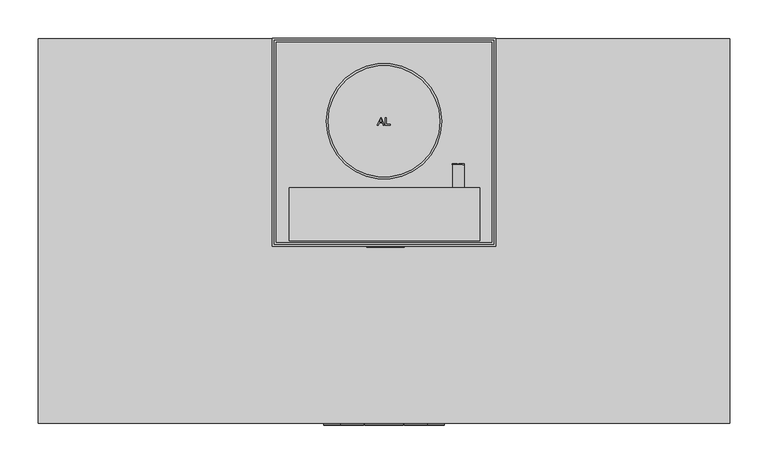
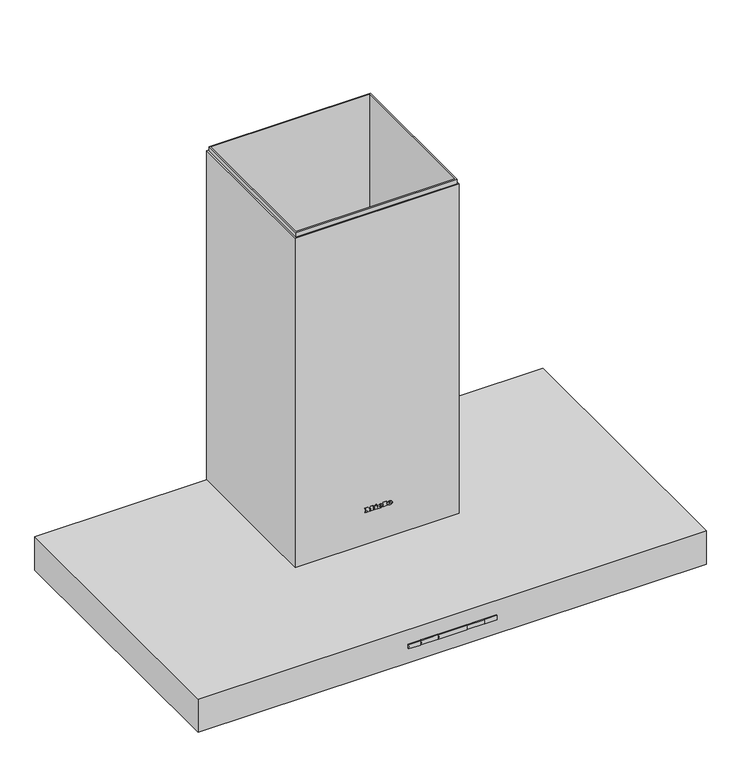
"""IFC4 building model written with IfcOpenShell, lengths in millimetres: proxy geometry, 10861860_F_DA4298W_EDST : 28429850_F_10861860_DA4298W_EDST."""

from ifc_helpers import new_model, si_unit, point, frame, frame_2d, origin, place, context, project, spatial, polyline, circle_curve, ellipse_curve, trimmed, segment, composite_curve, outline, extrude, faceted_brep, source, transform, mapped, element, save
from ifc_brep_helpers import plane_surface, cylinder_surface, revolved_surface, extruded_surface, advanced_brep


def specialty_equipment_3ea5a5a3(model_context):
    return source(origin(), model_context, "Body", "SolidModel", [
        advanced_brep(
        [(-270.0, -20.971114, 2.6236572), (-270.0, -76.028886, 17.3763428), (-270.0, -48.5, 10.0), (-270.0, -22.9370789, 1.9081045), (-270.0, -74.6840869, 15.7736735), (-270.0, -48.8105829, 8.840889)],
        [
            (0, 1, circle_curve(frame((-270.0, -48.5, 10.0), z_axis=(0.0, 0.25881904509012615, 0.9659258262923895), x_axis=(0.0, -0.9659258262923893, 0.2588190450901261)), 28.5)),
            (1, 2),
            (2, 0),
            (1, 0, circle_curve(frame((-270.0, -48.5, 10.0), z_axis=(0.0, 0.25881904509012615, 0.9659258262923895), x_axis=(0.0, -0.9659258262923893, 0.2588190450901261)), 28.5)),
            (0, 3),
            (3, 4, circle_curve(frame((-270.0, -48.8105829, 8.840889), z_axis=(0.0, 0.25881904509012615, 0.9659258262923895), x_axis=(0.0, -0.9659258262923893, 0.2588190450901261)), 26.7862224)),
            (4, 1),
            (4, 3, circle_curve(frame((-270.0, -48.8105829, 8.840889), z_axis=(0.0, 0.25881904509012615, 0.9659258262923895), x_axis=(0.0, -0.9659258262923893, 0.2588190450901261)), 26.7862224)),
            (3, 5),
            (5, 4),
        ],
        [
            plane_surface(frame((-270.0, -48.5, 10.0), z_axis=(0.0, 0.25881904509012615, 0.9659258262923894), x_axis=(0.0, -0.9659258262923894, 0.25881904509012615))),
            revolved_surface(polyline([(-270.0, -76.028886, 17.3763428), (-270.0, -74.6840869, 15.7736735)]), (-270.0, -48.5, 10.0), (0.0, -0.2588190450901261, -0.9659258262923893)),
            plane_surface(frame((-270.0, -48.8105829, 8.840889), z_axis=(0.0, -0.25881904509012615, -0.9659258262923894), x_axis=(0.0, -0.9659258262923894, 0.25881904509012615))),
        ],
        [
            (0, [[1, 2, 3]]),
            (0, [[-2, 4, -3]]),
            (1, [[-1, 5, 6, 7]]),
            (1, [[-4, -7, 8, -5]]),
            (2, [[-6, 9, 10]]),
            (2, [[-8, -10, -9]]),
        ],
    ),
        advanced_brep(
        [(0.0, -20.971114, 2.6236572), (0.0, -76.028886, 17.3763428), (0.0, -48.5, 10.0), (0.0, -22.9370789, 1.9081045), (0.0, -74.6840869, 15.7736735), (0.0, -48.8105829, 8.840889)],
        [
            (0, 1, circle_curve(frame((0.0, -48.5, 10.0), z_axis=(0.0, 0.2588190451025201, 0.9659258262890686), x_axis=(0.0, -0.9659258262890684, 0.25881904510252)), 28.5)),
            (1, 2),
            (2, 0),
            (1, 0, circle_curve(frame((0.0, -48.5, 10.0), z_axis=(0.0, 0.2588190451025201, 0.9659258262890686), x_axis=(0.0, -0.9659258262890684, 0.25881904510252)), 28.5)),
            (0, 3),
            (3, 4, circle_curve(frame((0.0, -48.8105829, 8.840889), z_axis=(0.0, 0.2588190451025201, 0.9659258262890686), x_axis=(0.0, -0.9659258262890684, 0.25881904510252)), 26.7862224)),
            (4, 1),
            (4, 3, circle_curve(frame((0.0, -48.8105829, 8.840889), z_axis=(0.0, 0.2588190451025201, 0.9659258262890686), x_axis=(0.0, -0.9659258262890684, 0.25881904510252)), 26.7862224)),
            (3, 5),
            (5, 4),
        ],
        [
            plane_surface(frame((0.0, -48.5, 10.0), z_axis=(0.0, 0.2588190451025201, 0.9659258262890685), x_axis=(0.0, -0.9659258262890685, 0.2588190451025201))),
            revolved_surface(polyline([(0.0, -76.028886, 17.3763428), (0.0, -74.6840869, 15.7736735)]), (0.0, -48.5, 10.0), (0.0, -0.25881904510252, -0.9659258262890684)),
            plane_surface(frame((0.0, -48.8105829, 8.840889), z_axis=(0.0, -0.2588190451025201, -0.9659258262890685), x_axis=(0.0, -0.9659258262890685, 0.2588190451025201))),
        ],
        [
            (0, [[1, 2, 3]]),
            (0, [[-2, 4, -3]]),
            (1, [[-1, 5, 6, 7]]),
            (1, [[-4, -7, 8, -5]]),
            (2, [[-6, 9, 10]]),
            (2, [[-8, -10, -9]]),
        ],
    ),
        advanced_brep(
        [(270.0, -20.971114, 2.6236572), (270.0, -76.028886, 17.3763428), (270.0, -48.5, 10.0), (270.0, -22.9370789, 1.9081045), (270.0, -74.6840869, 15.7736735), (270.0, -48.8105829, 8.840889)],
        [
            (0, 1, circle_curve(frame((270.0, -48.5, 10.0), z_axis=(0.0, 0.2588190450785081, 0.9659258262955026), x_axis=(0.0, -0.9659258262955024, 0.25881904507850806)), 28.5)),
            (1, 2),
            (2, 0),
            (1, 0, circle_curve(frame((270.0, -48.5, 10.0), z_axis=(0.0, 0.2588190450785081, 0.9659258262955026), x_axis=(0.0, -0.9659258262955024, 0.25881904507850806)), 28.5)),
            (0, 3),
            (3, 4, circle_curve(frame((270.0, -48.8105829, 8.840889), z_axis=(0.0, 0.2588190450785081, 0.9659258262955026), x_axis=(0.0, -0.9659258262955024, 0.25881904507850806)), 26.7862224)),
            (4, 1),
            (4, 3, circle_curve(frame((270.0, -48.8105829, 8.840889), z_axis=(0.0, 0.2588190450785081, 0.9659258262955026), x_axis=(0.0, -0.9659258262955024, 0.25881904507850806)), 26.7862224)),
            (3, 5),
            (5, 4),
        ],
        [
            plane_surface(frame((270.0, -48.5, 10.0), z_axis=(0.0, 0.2588190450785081, 0.9659258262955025), x_axis=(0.0, -0.9659258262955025, 0.2588190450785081))),
            revolved_surface(polyline([(270.0, -76.028886, 17.3763428), (270.0, -74.6840869, 15.7736735)]), (270.0, -48.5, 10.0), (0.0, -0.25881904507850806, -0.9659258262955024)),
            plane_surface(frame((270.0, -48.8105829, 8.840889), z_axis=(0.0, -0.2588190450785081, -0.9659258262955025), x_axis=(0.0, -0.9659258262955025, 0.2588190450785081))),
        ],
        [
            (0, [[1, 2, 3]]),
            (0, [[-2, 4, -3]]),
            (1, [[-1, 5, 6, 7]]),
            (1, [[-4, -7, 8, -5]]),
            (2, [[-6, 9, 10]]),
            (2, [[-8, -10, -9]]),
        ],
    ),
        extrude(outline(polyline([(131.6666667, -106.0), (131.6666667, -464.0), (-131.6666667, -464.0), (-131.6666667, -106.0), (131.6666667, -106.0)])), frame((0.0, 0.0, 6.5), z_axis=(0.0, 0.0, 1.0), x_axis=(1.0, 0.0, 0.0)), (0.0, 0.0, 1.0), 6.0),
        extrude(outline(polyline([(140.6666667, -97.0), (140.6666667, -473.0), (-140.6666667, -473.0), (-140.6666667, -97.0), (140.6666667, -97.0)]), holes=[polyline([(131.6666667, -106.0), (-131.6666667, -106.0), (-131.6666667, -464.0), (131.6666667, -464.0), (131.6666667, -106.0)])]), frame((0.0, 0.0, 5.0), z_axis=(0.0, 0.0, 1.0), x_axis=(1.0, 0.0, 0.0)), (0.0, 0.0, 1.0), 9.0),
        extrude(outline(polyline([(149.6666667, -106.0), (413.0, -106.0), (413.0, -464.0), (149.6666667, -464.0), (149.6666667, -106.0)])), frame((0.0, 0.0, 6.5), z_axis=(0.0, 0.0, 1.0), x_axis=(1.0, 0.0, 0.0)), (0.0, 0.0, 1.0), 6.0),
        extrude(outline(polyline([(140.6666667, -97.0), (422.0, -97.0), (422.0, -473.0), (140.6666667, -473.0), (140.6666667, -97.0)]), holes=[polyline([(149.6666667, -106.0), (149.6666667, -464.0), (413.0, -464.0), (413.0, -106.0), (149.6666667, -106.0)])]), frame((0.0, 0.0, 5.0), z_axis=(0.0, 0.0, 1.0), x_axis=(1.0, 0.0, 0.0)), (0.0, 0.0, 1.0), 9.0),
        extrude(outline(polyline([(-149.6666667, -106.0), (-149.6666667, -464.0), (-413.0, -464.0), (-413.0, -106.0), (-149.6666667, -106.0)])), frame((0.0, 0.0, 6.5), z_axis=(0.0, 0.0, 1.0), x_axis=(1.0, 0.0, 0.0)), (0.0, 0.0, 1.0), 6.0),
        extrude(outline(polyline([(-140.6666667, -97.0), (-140.6666667, -473.0), (-422.0, -473.0), (-422.0, -97.0), (-140.6666667, -97.0)]), holes=[polyline([(-149.6666667, -106.0), (-413.0, -106.0), (-413.0, -464.0), (-149.6666667, -464.0), (-149.6666667, -106.0)])]), frame((0.0, 0.0, 5.0), z_axis=(0.0, 0.0, 1.0), x_axis=(1.0, 0.0, 0.0)), (0.0, 0.0, 1.0), 9.0),
        extrude(outline(polyline([(16.5, -421.0), (16.5, -464.0), (-16.5, -464.0), (-16.5, -421.0), (16.5, -421.0)]), holes=[polyline([(10.0, -427.5), (-10.0, -427.5), (-10.0, -436.5), (10.0, -436.5), (10.0, -427.5)])]), frame((0.0, 0.0, 5.0), z_axis=(0.0, 0.0, 1.0), x_axis=(1.0, 0.0, 0.0)), (0.0, 0.0, 1.0), 1.5),
        extrude(outline(polyline([(264.8333333, -421.0), (297.8333333, -421.0), (297.8333333, -464.0), (264.8333333, -464.0), (264.8333333, -421.0)]), holes=[polyline([(271.3333333, -427.5), (271.3333333, -436.5), (291.1047662, -436.5), (291.1047662, -427.5), (271.3333333, -427.5)])]), frame((0.0, 0.0, 5.0), z_axis=(0.0, 0.0, 1.0), x_axis=(1.0, 0.0, 0.0)), (0.0, 0.0, 1.0), 1.5),
        extrude(outline(polyline([(-264.8333333, -421.0), (-264.8333333, -464.0), (-297.8333333, -464.0), (-297.8333333, -421.0), (-264.8333333, -421.0)]), holes=[polyline([(-271.3333333, -427.5), (-291.3333333, -427.5), (-291.3333333, -436.5), (-271.3333333, -436.5), (-271.3333333, -427.5)])]), frame((0.0, 0.0, 5.0), z_axis=(0.0, 0.0, 1.0), x_axis=(1.0, 0.0, 0.0)), (0.0, 0.0, 1.0), 1.5),
        faceted_brep([(-142.5, -267.5, 685.0), (142.5, -267.5, 685.0), (142.5, -2.5, 685.0), (-142.5, -2.5, 685.0), (140.0, -5.0, 685.0), (140.0, -265.0, 685.0), (-140.0, -265.0, 685.0), (-140.0, -5.0, 685.0), (-142.5, -267.5, 210.0), (-142.5, -2.5, 210.0), (142.5, -2.5, 210.0), (142.5, -267.5, 210.0), (140.0, -5.0, 210.0), (-140.0, -5.0, 210.0), (-140.0, -265.0, 210.0), (140.0, -265.0, 210.0), (-142.5, -247.0, 245.0), (-142.5, -236.4, 245.0), (-142.5, -236.4, 345.0), (-142.5, -247.0, 345.0), (-142.5, -225.8, 245.0), (-142.5, -215.2, 245.0), (-142.5, -215.2, 345.0), (-142.5, -225.8, 345.0), (-142.5, -204.6, 245.0), (-142.5, -194.0, 245.0), (-142.5, -194.0, 345.0), (-142.5, -204.6, 345.0), (-142.5, -183.4, 245.0), (-142.5, -172.8, 245.0), (-142.5, -172.8, 345.0), (-142.5, -183.4, 345.0), (-142.5, -162.2, 245.0), (-142.5, -151.6, 245.0), (-142.5, -151.6, 345.0), (-142.5, -162.2, 345.0), (-142.5, -141.0, 245.0), (-142.5, -129.0, 245.0), (-142.5, -129.0, 345.0), (-142.5, -141.0, 345.0), (-142.5, -118.4, 245.0), (-142.5, -107.8, 245.0), (-142.5, -107.8, 345.0), (-142.5, -118.4, 345.0), (-142.5, -97.2, 245.0), (-142.5, -86.6, 245.0), (-142.5, -86.6, 345.0), (-142.5, -97.2, 345.0), (-142.5, -76.0, 245.0), (-142.5, -65.4, 245.0), (-142.5, -65.4, 345.0), (-142.5, -76.0, 345.0), (-142.5, -54.8, 245.0), (-142.5, -44.2, 245.0), (-142.5, -44.2, 345.0), (-142.5, -54.8, 345.0), (-142.5, -33.6, 245.0), (-142.5, -23.0, 245.0), (-142.5, -23.0, 345.0), (-142.5, -33.6, 345.0), (121.0, -265.0, 245.0), (121.0, -265.0, 345.0), (109.0, -265.0, 345.0), (109.0, -265.0, 245.0), (-121.0, -265.0, 345.0), (-121.0, -265.0, 245.0), (-109.0, -265.0, 245.0), (-109.0, -265.0, 345.0), (-86.0, -265.0, 345.0), (-97.5, -265.0, 345.0), (-97.5, -265.0, 245.0), (-86.0, -265.0, 245.0), (-63.0, -265.0, 345.0), (-74.5, -265.0, 345.0), (-74.5, -265.0, 245.0), (-63.0, -265.0, 245.0), (-40.0, -265.0, 345.0), (-51.5, -265.0, 345.0), (-51.5, -265.0, 245.0), (-40.0, -265.0, 245.0), (-17.0, -265.0, 345.0), (-28.5, -265.0, 345.0), (-28.5, -265.0, 245.0), (-17.0, -265.0, 245.0), (5.5, -265.0, 345.0), (-5.5, -265.0, 345.0), (-5.5, -265.0, 245.0), (5.5, -265.0, 245.0), (28.5, -265.0, 345.0), (17.0, -265.0, 345.0), (17.0, -265.0, 245.0), (28.5, -265.0, 245.0), (51.5, -265.0, 345.0), (40.0, -265.0, 345.0), (40.0, -265.0, 245.0), (51.5, -265.0, 245.0), (74.5, -265.0, 345.0), (63.0, -265.0, 345.0), (63.0, -265.0, 245.0), (74.5, -265.0, 245.0), (97.5, -265.0, 345.0), (86.0, -265.0, 345.0), (86.0, -265.0, 245.0), (97.5, -265.0, 245.0), (-140.0, -236.4, 245.0), (-140.0, -247.0, 245.0), (-140.0, -247.0, 345.0), (-140.0, -236.4, 345.0), (-140.0, -215.2, 245.0), (-140.0, -225.8, 245.0), (-140.0, -225.8, 345.0), (-140.0, -215.2, 345.0), (-140.0, -194.0, 245.0), (-140.0, -204.6, 245.0), (-140.0, -204.6, 345.0), (-140.0, -194.0, 345.0), (-140.0, -172.8, 245.0), (-140.0, -183.4, 245.0), (-140.0, -183.4, 345.0), (-140.0, -172.8, 345.0), (-140.0, -151.6, 245.0), (-140.0, -162.2, 245.0), (-140.0, -162.2, 345.0), (-140.0, -151.6, 345.0), (-140.0, -129.0, 245.0), (-140.0, -141.0, 245.0), (-140.0, -141.0, 345.0), (-140.0, -129.0, 345.0), (-140.0, -107.8, 245.0), (-140.0, -118.4, 245.0), (-140.0, -118.4, 345.0), (-140.0, -107.8, 345.0), (-140.0, -86.6, 245.0), (-140.0, -97.2, 245.0), (-140.0, -97.2, 345.0), (-140.0, -86.6, 345.0), (-140.0, -65.4, 245.0), (-140.0, -76.0, 245.0), (-140.0, -76.0, 345.0), (-140.0, -65.4, 345.0), (-140.0, -44.2, 245.0), (-140.0, -54.8, 245.0), (-140.0, -54.8, 345.0), (-140.0, -44.2, 345.0), (-140.0, -23.0, 245.0), (-140.0, -33.6, 245.0), (-140.0, -33.6, 345.0), (-140.0, -23.0, 345.0), (140.0, -247.0, 345.0), (140.0, -247.0, 245.0), (140.0, -236.4, 245.0), (140.0, -236.4, 345.0), (140.0, -23.0, 245.0), (140.0, -23.0, 345.0), (140.0, -33.6, 345.0), (140.0, -33.6, 245.0), (140.0, -225.8, 345.0), (140.0, -225.8, 245.0), (140.0, -215.2, 245.0), (140.0, -215.2, 345.0), (140.0, -204.6, 345.0), (140.0, -204.6, 245.0), (140.0, -194.0, 245.0), (140.0, -194.0, 345.0), (140.0, -183.4, 345.0), (140.0, -183.4, 245.0), (140.0, -172.8, 245.0), (140.0, -172.8, 345.0), (140.0, -162.2, 345.0), (140.0, -162.2, 245.0), (140.0, -151.6, 245.0), (140.0, -151.6, 345.0), (140.0, -44.2, 245.0), (140.0, -44.2, 345.0), (140.0, -54.8, 345.0), (140.0, -54.8, 245.0), (140.0, -65.4, 245.0), (140.0, -65.4, 345.0), (140.0, -76.0, 345.0), (140.0, -76.0, 245.0), (140.0, -86.6, 245.0), (140.0, -86.6, 345.0), (140.0, -97.2, 345.0), (140.0, -97.2, 245.0), (140.0, -107.8, 245.0), (140.0, -107.8, 345.0), (140.0, -118.4, 345.0), (140.0, -118.4, 245.0), (140.0, -129.0, 245.0), (140.0, -129.0, 345.0), (140.0, -141.0, 345.0), (140.0, -141.0, 245.0), (142.5, -23.0, 345.0), (142.5, -23.0, 245.0), (142.5, -33.6, 245.0), (142.5, -33.6, 345.0), (142.5, -247.0, 245.0), (142.5, -247.0, 345.0), (142.5, -236.4, 345.0), (142.5, -236.4, 245.0), (142.5, -225.8, 245.0), (142.5, -225.8, 345.0), (142.5, -215.2, 345.0), (142.5, -215.2, 245.0), (142.5, -204.6, 245.0), (142.5, -204.6, 345.0), (142.5, -194.0, 345.0), (142.5, -194.0, 245.0), (142.5, -183.4, 245.0), (142.5, -183.4, 345.0), (142.5, -172.8, 345.0), (142.5, -172.8, 245.0), (142.5, -162.2, 245.0), (142.5, -162.2, 345.0), (142.5, -151.6, 345.0), (142.5, -151.6, 245.0), (142.5, -44.2, 345.0), (142.5, -44.2, 245.0), (142.5, -54.8, 245.0), (142.5, -54.8, 345.0), (142.5, -65.4, 345.0), (142.5, -65.4, 245.0), (142.5, -76.0, 245.0), (142.5, -76.0, 345.0), (142.5, -86.6, 345.0), (142.5, -86.6, 245.0), (142.5, -97.2, 245.0), (142.5, -97.2, 345.0), (142.5, -107.8, 345.0), (142.5, -107.8, 245.0), (142.5, -118.4, 245.0), (142.5, -118.4, 345.0), (142.5, -129.0, 345.0), (142.5, -129.0, 245.0), (142.5, -141.0, 245.0), (142.5, -141.0, 345.0), (121.0, -267.5, 345.0), (121.0, -267.5, 245.0), (109.0, -267.5, 245.0), (109.0, -267.5, 345.0), (-121.0, -267.5, 245.0), (-121.0, -267.5, 345.0), (-109.0, -267.5, 345.0), (-109.0, -267.5, 245.0), (-97.5, -267.5, 345.0), (-86.0, -267.5, 345.0), (-86.0, -267.5, 245.0), (-97.5, -267.5, 245.0), (-74.5, -267.5, 345.0), (-63.0, -267.5, 345.0), (-63.0, -267.5, 245.0), (-74.5, -267.5, 245.0), (-51.5, -267.5, 345.0), (-40.0, -267.5, 345.0), (-40.0, -267.5, 245.0), (-51.5, -267.5, 245.0), (-28.5, -267.5, 345.0), (-17.0, -267.5, 345.0), (-17.0, -267.5, 245.0), (-28.5, -267.5, 245.0), (-5.5, -267.5, 345.0), (5.5, -267.5, 345.0), (5.5, -267.5, 245.0), (-5.5, -267.5, 245.0), (17.0, -267.5, 345.0), (28.5, -267.5, 345.0), (28.5, -267.5, 245.0), (17.0, -267.5, 245.0), (40.0, -267.5, 345.0), (51.5, -267.5, 345.0), (51.5, -267.5, 245.0), (40.0, -267.5, 245.0), (63.0, -267.5, 345.0), (74.5, -267.5, 345.0), (74.5, -267.5, 245.0), (63.0, -267.5, 245.0), (86.0, -267.5, 345.0), (97.5, -267.5, 345.0), (97.5, -267.5, 245.0), (86.0, -267.5, 245.0)], [[[0, 1, 2, 3], [4, 5, 6, 7]], [[8, 9, 10, 11], [12, 13, 14, 15]], [[0, 3, 9, 8], [16, 17, 18, 19], [20, 21, 22, 23], [24, 25, 26, 27], [28, 29, 30, 31], [32, 33, 34, 35], [36, 37, 38, 39], [40, 41, 42, 43], [44, 45, 46, 47], [48, 49, 50, 51], [52, 53, 54, 55], [56, 57, 58, 59]], [[6, 5, 15, 14], [60, 61, 62, 63], [64, 65, 66, 67], [68, 69, 70, 71], [72, 73, 74, 75], [76, 77, 78, 79], [80, 81, 82, 83], [84, 85, 86, 87], [88, 89, 90, 91], [92, 93, 94, 95], [96, 97, 98, 99], [100, 101, 102, 103]], [[7, 6, 14, 13], [104, 105, 106, 107], [108, 109, 110, 111], [112, 113, 114, 115], [116, 117, 118, 119], [120, 121, 122, 123], [124, 125, 126, 127], [128, 129, 130, 131], [132, 133, 134, 135], [136, 137, 138, 139], [140, 141, 142, 143], [144, 145, 146, 147]], [[5, 4, 12, 15], [148, 149, 150, 151], [152, 153, 154, 155], [156, 157, 158, 159], [160, 161, 162, 163], [164, 165, 166, 167], [168, 169, 170, 171], [172, 173, 174, 175], [176, 177, 178, 179], [180, 181, 182, 183], [184, 185, 186, 187], [188, 189, 190, 191]], [[2, 1, 11, 10], [192, 193, 194, 195], [196, 197, 198, 199], [200, 201, 202, 203], [204, 205, 206, 207], [208, 209, 210, 211], [212, 213, 214, 215], [216, 217, 218, 219], [220, 221, 222, 223], [224, 225, 226, 227], [228, 229, 230, 231], [232, 233, 234, 235]], [[1, 0, 8, 11], [236, 237, 238, 239], [240, 241, 242, 243], [244, 245, 246, 247], [248, 249, 250, 251], [252, 253, 254, 255], [256, 257, 258, 259], [260, 261, 262, 263], [264, 265, 266, 267], [268, 269, 270, 271], [272, 273, 274, 275], [276, 277, 278, 279]], [[3, 2, 10, 9]], [[4, 7, 13, 12]], [[60, 237, 236, 61]], [[64, 241, 240, 65]], [[196, 149, 148, 197]], [[192, 153, 152, 193]], [[149, 196, 199, 150]], [[150, 199, 198, 151]], [[197, 148, 151, 198]], [[153, 192, 195, 154]], [[154, 195, 194, 155]], [[193, 152, 155, 194]], [[200, 157, 156, 201]], [[157, 200, 203, 158]], [[158, 203, 202, 159]], [[201, 156, 159, 202]], [[204, 161, 160, 205]], [[161, 204, 207, 162]], [[162, 207, 206, 163]], [[205, 160, 163, 206]], [[208, 165, 164, 209]], [[165, 208, 211, 166]], [[166, 211, 210, 167]], [[209, 164, 167, 210]], [[212, 169, 168, 213]], [[169, 212, 215, 170]], [[170, 215, 214, 171]], [[213, 168, 171, 214]], [[216, 173, 172, 217]], [[173, 216, 219, 174]], [[174, 219, 218, 175]], [[217, 172, 175, 218]], [[220, 177, 176, 221]], [[177, 220, 223, 178]], [[178, 223, 222, 179]], [[221, 176, 179, 222]], [[224, 181, 180, 225]], [[181, 224, 227, 182]], [[182, 227, 226, 183]], [[225, 180, 183, 226]], [[228, 185, 184, 229]], [[185, 228, 231, 186]], [[186, 231, 230, 187]], [[229, 184, 187, 230]], [[232, 189, 188, 233]], [[189, 232, 235, 190]], [[190, 235, 234, 191]], [[233, 188, 191, 234]], [[104, 17, 16, 105]], [[17, 104, 107, 18]], [[18, 107, 106, 19]], [[105, 16, 19, 106]], [[108, 21, 20, 109]], [[21, 108, 111, 22]], [[22, 111, 110, 23]], [[109, 20, 23, 110]], [[112, 25, 24, 113]], [[25, 112, 115, 26]], [[26, 115, 114, 27]], [[113, 24, 27, 114]], [[116, 29, 28, 117]], [[29, 116, 119, 30]], [[30, 119, 118, 31]], [[117, 28, 31, 118]], [[120, 33, 32, 121]], [[33, 120, 123, 34]], [[34, 123, 122, 35]], [[121, 32, 35, 122]], [[124, 37, 36, 125]], [[37, 124, 127, 38]], [[38, 127, 126, 39]], [[125, 36, 39, 126]], [[128, 41, 40, 129]], [[41, 128, 131, 42]], [[42, 131, 130, 43]], [[129, 40, 43, 130]], [[132, 45, 44, 133]], [[45, 132, 135, 46]], [[46, 135, 134, 47]], [[133, 44, 47, 134]], [[136, 49, 48, 137]], [[49, 136, 139, 50]], [[50, 139, 138, 51]], [[137, 48, 51, 138]], [[140, 53, 52, 141]], [[53, 140, 143, 54]], [[54, 143, 142, 55]], [[141, 52, 55, 142]], [[144, 57, 56, 145]], [[57, 144, 147, 58]], [[58, 147, 146, 59]], [[145, 56, 59, 146]], [[241, 64, 67, 242]], [[242, 67, 66, 243]], [[65, 240, 243, 66]], [[237, 60, 63, 238]], [[238, 63, 62, 239]], [[61, 236, 239, 62]], [[68, 245, 244, 69]], [[245, 68, 71, 246]], [[246, 71, 70, 247]], [[69, 244, 247, 70]], [[72, 249, 248, 73]], [[249, 72, 75, 250]], [[250, 75, 74, 251]], [[73, 248, 251, 74]], [[76, 253, 252, 77]], [[253, 76, 79, 254]], [[254, 79, 78, 255]], [[77, 252, 255, 78]], [[80, 257, 256, 81]], [[257, 80, 83, 258]], [[258, 83, 82, 259]], [[81, 256, 259, 82]], [[84, 261, 260, 85]], [[261, 84, 87, 262]], [[262, 87, 86, 263]], [[85, 260, 263, 86]], [[88, 265, 264, 89]], [[265, 88, 91, 266]], [[266, 91, 90, 267]], [[89, 264, 267, 90]], [[92, 269, 268, 93]], [[269, 92, 95, 270]], [[270, 95, 94, 271]], [[93, 268, 271, 94]], [[96, 273, 272, 97]], [[273, 96, 99, 274]], [[274, 99, 98, 275]], [[97, 272, 275, 98]], [[100, 277, 276, 101]], [[277, 100, 103, 278]], [[278, 103, 102, 279]], [[101, 276, 279, 102]]]),
        extrude(outline(polyline([(145.0, 0.0), (145.0, -270.0), (-145.0, -270.0), (-145.0, 0.0), (145.0, 0.0)]), holes=[polyline([(-142.5, -2.5), (-142.5, -267.5), (142.5, -267.5), (142.5, -2.5), (-142.5, -2.5)])]), frame((0.0, 0.0, 62.0), z_axis=(0.0, 0.0, 1.0), x_axis=(1.0, 0.0, 0.0)), (0.0, 0.0, 1.0), 615.0),
        advanced_brep(
        [(21.104, -271.0, 123.896), (21.104, -271.0, 124.704), (26.456, -271.0, 124.704), (17.144, -271.0, 124.704), (19.344, -271.0, 122.0), (26.32, -271.0, 123.896), (23.904, -271.0, 123.896), (22.0, -271.0, 123.0), (21.104, -271.0, 125.728), (21.104, -271.0, 126.6), (22.472, -271.0, 126.6), (22.472, -271.0, 125.728), (21.104, -270.0, 123.896), (22.0, -270.0, 123.0), (23.904, -270.0, 123.896), (26.32, -270.0, 123.896), (19.344, -270.0, 122.0), (17.144, -270.0, 124.704), (26.456, -270.0, 124.704), (21.104, -270.0, 124.704), (21.104, -270.0, 125.728), (22.472, -270.0, 125.728), (22.472, -270.0, 126.6), (21.104, -270.0, 126.6)],
        [
            (0, 1),
            (1, 2),
            (2, 3, ellipse_curve(frame((21.8, -271.0, 124.704), z_axis=(0.0, -1.0, -1.2192856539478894e-11), x_axis=(-1.0, 0.0, 0.0)), 4.656, 3.848)),
            (3, 4, circle_curve(frame((20.2400436, -271.0, 124.976), z_axis=(0.0, -1.0, -1.2192856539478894e-11), x_axis=(0.0, 1.2192856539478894e-11, -1.0)), 3.1079688)),
            (4, 5, circle_curve(frame((21.7067936, -271.0, 127.088), z_axis=(0.0, -1.0, -1.2192856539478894e-11), x_axis=(0.0, 1.2192856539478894e-11, -1.0)), 5.6098607)),
            (5, 6),
            (6, 7, circle_curve(frame((22.3910588, -271.0, 124.64), z_axis=(0.0, 1.0, 1.2192856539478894e-11), x_axis=(0.0, 1.2192856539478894e-11, -1.0)), 1.6859795)),
            (7, 0, circle_curve(frame((22.0, -271.0, 123.896), z_axis=(0.0, 1.0, 1.2192856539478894e-11), x_axis=(0.0, 1.2192856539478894e-11, -1.0)), 0.896)),
            (8, 9),
            (9, 10, circle_curve(frame((21.788, -271.0, 126.6), z_axis=(0.0, 1.0, 1.2192856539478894e-11), x_axis=(0.0, 1.2192856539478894e-11, -1.0)), 0.684)),
            (10, 11),
            (11, 8),
            (12, 13, circle_curve(frame((22.0, -270.0, 123.896), z_axis=(0.0, -1.0, -1.2192856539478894e-11), x_axis=(0.0, 1.2192856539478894e-11, -1.0)), 0.896)),
            (13, 14, circle_curve(frame((22.3910588, -270.0, 124.64), z_axis=(0.0, -1.0, -1.2192856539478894e-11), x_axis=(0.0, 1.2192856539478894e-11, -1.0)), 1.6859795)),
            (14, 15),
            (15, 16, circle_curve(frame((21.7067936, -270.0, 127.088), z_axis=(0.0, 1.0, 1.2192856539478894e-11), x_axis=(0.0, 1.2192856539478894e-11, -1.0)), 5.6098607)),
            (16, 17, circle_curve(frame((20.2400436, -270.0, 124.976), z_axis=(0.0, 1.0, 1.2192856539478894e-11), x_axis=(0.0, 1.2192856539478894e-11, -1.0)), 3.1079688)),
            (17, 18, ellipse_curve(frame((21.8, -270.0, 124.704), z_axis=(0.0, 1.0, 1.2192856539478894e-11), x_axis=(-1.0, 0.0, 0.0)), 4.656, 3.848)),
            (18, 19),
            (19, 12),
            (20, 21),
            (21, 22),
            (22, 23, circle_curve(frame((21.788, -270.0, 126.6), z_axis=(0.0, -1.0, -1.2192856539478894e-11), x_axis=(0.0, 1.2192856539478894e-11, -1.0)), 0.684)),
            (23, 20),
            (0, 12),
            (19, 1),
            (18, 2),
            (5, 15),
            (14, 6),
            (17, 3),
            (13, 7),
            (16, 4),
            (8, 20),
            (23, 9),
            (22, 10),
            (21, 11),
        ],
        [
            plane_surface(frame((21.104, -271.0, 124.704), z_axis=(0.0, -1.0, -1.2192856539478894e-11), x_axis=(0.0, -1.2192856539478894e-11, 1.0))),
            plane_surface(frame((21.104, -270.0, 124.704), z_axis=(0.0, 1.0, 1.2192856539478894e-11), x_axis=(0.0, 1.2192856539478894e-11, -1.0))),
            plane_surface(frame((21.104, -271.0, 123.896), z_axis=(1.0, 0.0, 0.0), x_axis=(0.0, 1.0, 1.2192856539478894e-11))),
            plane_surface(frame((21.104, -271.0, 124.704), z_axis=(0.0, 1.2192856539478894e-11, -1.0), x_axis=(0.0, 1.0, 1.2192856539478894e-11))),
            plane_surface(frame((26.32, -271.0, 123.896), z_axis=(0.0, -1.2192856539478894e-11, 1.0), x_axis=(0.0, 1.0, 1.2192856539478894e-11))),
            extruded_surface(trimmed(ellipse_curve(frame((21.8, -269.0, 124.704), z_axis=(0.0, -1.0, -1.2192856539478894e-11), x_axis=(-1.0, 0.0, 0.0)), 4.656, 3.848), [point((26.456, -269.0, 124.704))], [point((17.144, -269.0, 124.704))], True, "CARTESIAN"), (0.0, -1.0, 0.0), 1.0),
            revolved_surface(polyline([(22.3910588, -269.9999999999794, 122.9540205), (22.3910588, -270.99999999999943, 122.9540204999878)]), (22.3910588, -270.0, 124.64), (0.0, 1.0, 1.2192856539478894e-11)),
            revolved_surface(polyline([(22.0, -269.9999999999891, 123.0), (22.0, -271.0, 122.9999999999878)]), (22.0, -270.0, 123.896), (0.0, 1.0, 1.2192856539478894e-11)),
            cylinder_surface(frame((20.2400436, -270.0, 124.976), z_axis=(0.0, -1.0, -1.2192856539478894e-11), x_axis=(0.0, 1.2192856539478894e-11, -1.0)), 3.1079688),
            cylinder_surface(frame((21.7067936, -270.0, 127.088), z_axis=(0.0, -1.0, -1.2192856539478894e-11), x_axis=(0.0, 1.2192856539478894e-11, -1.0)), 5.6098607),
            plane_surface(frame((21.104, -271.0, 125.728), z_axis=(1.0, 0.0, 0.0), x_axis=(0.0, 1.0, 1.2192856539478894e-11))),
            revolved_surface(polyline([(21.788, -269.99999999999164, 125.916), (21.788, -270.99999999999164, 125.9159999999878)]), (21.788, -270.0, 126.6), (0.0, 1.0, 1.2192856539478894e-11)),
            plane_surface(frame((22.472, -271.0, 126.6), z_axis=(-1.0, 0.0, 0.0), x_axis=(0.0, 1.0, 1.2192856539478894e-11))),
            plane_surface(frame((22.472, -271.0, 125.728), z_axis=(0.0, -1.2192856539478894e-11, 1.0), x_axis=(0.0, 1.0, 1.2192856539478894e-11))),
        ],
        [
            (0, [[1, 2, 3, 4, 5, 6, 7, 8], [9, 10, 11, 12]]),
            (1, [[13, 14, 15, 16, 17, 18, 19, 20], [21, 22, 23, 24]]),
            (2, [[-1, 25, -20, 26]]),
            (3, [[-2, -26, -19, 27]]),
            (4, [[-6, 28, -15, 29]]),
            (5, [[-3, -27, -18, 30]]),
            (6, [[-7, -29, -14, 31]]),
            (7, [[-8, -31, -13, -25]]),
            (8, [[-4, -30, -17, 32]]),
            (9, [[-5, -32, -16, -28]]),
            (10, [[-9, 33, -24, 34]]),
            (11, [[-10, -34, -23, 35]]),
            (12, [[-11, -35, -22, 36]]),
            (13, [[-12, -36, -21, -33]]),
        ],
    ),
        advanced_brep(
        [(4.408, -271.0, 123.896), (4.408, -271.0, 124.704), (9.76, -271.0, 124.704), (0.448, -271.0, 124.704), (2.648, -271.0, 122.0), (9.624, -271.0, 123.896), (7.208, -271.0, 123.896), (5.304, -271.0, 123.0), (4.408, -271.0, 125.728), (4.408, -271.0, 126.6), (5.776, -271.0, 126.6), (5.776, -271.0, 125.728), (4.408, -270.0, 123.896), (5.304, -270.0, 123.0), (7.208, -270.0, 123.896), (9.624, -270.0, 123.896), (2.648, -270.0, 122.0), (0.448, -270.0, 124.704), (9.76, -270.0, 124.704), (4.408, -270.0, 124.704), (4.408, -270.0, 125.728), (5.776, -270.0, 125.728), (5.776, -270.0, 126.6), (4.408, -270.0, 126.6)],
        [
            (0, 1),
            (1, 2),
            (2, 3, ellipse_curve(frame((5.104, -271.0, 124.704), z_axis=(0.0, -1.0, -1.2192856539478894e-11), x_axis=(-1.0, 0.0, 0.0)), 4.656, 3.848)),
            (3, 4, circle_curve(frame((3.5440436, -271.0, 124.976), z_axis=(0.0, -1.0, -1.2192856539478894e-11), x_axis=(0.0, 1.2192856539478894e-11, -1.0)), 3.1079688)),
            (4, 5, circle_curve(frame((5.0107936, -271.0, 127.088), z_axis=(0.0, -1.0, -1.2192856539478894e-11), x_axis=(0.0, 1.2192856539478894e-11, -1.0)), 5.6098607)),
            (5, 6),
            (6, 7, circle_curve(frame((5.6950588, -271.0, 124.64), z_axis=(0.0, 1.0, 1.2192856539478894e-11), x_axis=(0.0, 1.2192856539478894e-11, -1.0)), 1.6859795)),
            (7, 0, circle_curve(frame((5.304, -271.0, 123.896), z_axis=(0.0, 1.0, 1.2192856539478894e-11), x_axis=(0.0, 1.2192856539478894e-11, -1.0)), 0.896)),
            (8, 9),
            (9, 10, circle_curve(frame((5.092, -271.0, 126.6), z_axis=(0.0, 1.0, 1.2192856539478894e-11), x_axis=(0.0, 1.2192856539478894e-11, -1.0)), 0.684)),
            (10, 11),
            (11, 8),
            (12, 13, circle_curve(frame((5.304, -270.0, 123.896), z_axis=(0.0, -1.0, -1.2192856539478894e-11), x_axis=(0.0, 1.2192856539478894e-11, -1.0)), 0.896)),
            (13, 14, circle_curve(frame((5.6950588, -270.0, 124.64), z_axis=(0.0, -1.0, -1.2192856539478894e-11), x_axis=(0.0, 1.2192856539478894e-11, -1.0)), 1.6859795)),
            (14, 15),
            (15, 16, circle_curve(frame((5.0107936, -270.0, 127.088), z_axis=(0.0, 1.0, 1.2192856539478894e-11), x_axis=(0.0, 1.2192856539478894e-11, -1.0)), 5.6098607)),
            (16, 17, circle_curve(frame((3.5440436, -270.0, 124.976), z_axis=(0.0, 1.0, 1.2192856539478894e-11), x_axis=(0.0, 1.2192856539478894e-11, -1.0)), 3.1079688)),
            (17, 18, ellipse_curve(frame((5.104, -270.0, 124.704), z_axis=(0.0, 1.0, 1.2192856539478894e-11), x_axis=(-1.0, 0.0, 0.0)), 4.656, 3.848)),
            (18, 19),
            (19, 12),
            (20, 21),
            (21, 22),
            (22, 23, circle_curve(frame((5.092, -270.0, 126.6), z_axis=(0.0, -1.0, -1.2192856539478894e-11), x_axis=(0.0, 1.2192856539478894e-11, -1.0)), 0.684)),
            (23, 20),
            (0, 12),
            (19, 1),
            (18, 2),
            (5, 15),
            (14, 6),
            (17, 3),
            (13, 7),
            (16, 4),
            (8, 20),
            (23, 9),
            (22, 10),
            (21, 11),
        ],
        [
            plane_surface(frame((4.408, -271.0, 124.704), z_axis=(0.0, -1.0, -1.2192856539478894e-11), x_axis=(0.0, -1.2192856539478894e-11, 1.0))),
            plane_surface(frame((4.408, -270.0, 124.704), z_axis=(0.0, 1.0, 1.2192856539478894e-11), x_axis=(0.0, 1.2192856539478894e-11, -1.0))),
            plane_surface(frame((4.408, -271.0, 123.896), z_axis=(1.0, 0.0, 0.0), x_axis=(0.0, 1.0, 1.2192856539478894e-11))),
            plane_surface(frame((4.408, -271.0, 124.704), z_axis=(0.0, 1.2192856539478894e-11, -1.0), x_axis=(0.0, 1.0, 1.2192856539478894e-11))),
            plane_surface(frame((9.624, -271.0, 123.896), z_axis=(0.0, -1.2192856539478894e-11, 1.0), x_axis=(0.0, 1.0, 1.2192856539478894e-11))),
            extruded_surface(trimmed(ellipse_curve(frame((5.104, -269.0, 124.704), z_axis=(0.0, -1.0, -1.2192856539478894e-11), x_axis=(-1.0, 0.0, 0.0)), 4.656, 3.848), [point((9.76, -269.0, 124.704))], [point((0.448, -269.0, 124.704))], True, "CARTESIAN"), (0.0, -1.0, 0.0), 1.0),
            revolved_surface(polyline([(5.6950588, -269.9999999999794, 122.9540205), (5.6950588, -270.99999999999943, 122.9540204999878)]), (5.6950588, -270.0, 124.64), (0.0, 1.0, 1.2192856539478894e-11)),
            revolved_surface(polyline([(5.304, -269.9999999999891, 123.0), (5.304, -271.0, 122.9999999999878)]), (5.304, -270.0, 123.896), (0.0, 1.0, 1.2192856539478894e-11)),
            cylinder_surface(frame((3.5440436, -270.0, 124.976), z_axis=(0.0, -1.0, -1.2192856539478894e-11), x_axis=(0.0, 1.2192856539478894e-11, -1.0)), 3.1079688),
            cylinder_surface(frame((5.0107936, -270.0, 127.088), z_axis=(0.0, -1.0, -1.2192856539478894e-11), x_axis=(0.0, 1.2192856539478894e-11, -1.0)), 5.6098607),
            plane_surface(frame((4.408, -271.0, 125.728), z_axis=(1.0, 0.0, 0.0), x_axis=(0.0, 1.0, 1.2192856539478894e-11))),
            revolved_surface(polyline([(5.092, -269.99999999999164, 125.916), (5.092, -270.99999999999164, 125.9159999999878)]), (5.092, -270.0, 126.6), (0.0, 1.0, 1.2192856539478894e-11)),
            plane_surface(frame((5.776, -271.0, 126.6), z_axis=(-1.0, 0.0, 0.0), x_axis=(0.0, 1.0, 1.2192856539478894e-11))),
            plane_surface(frame((5.776, -271.0, 125.728), z_axis=(0.0, -1.2192856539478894e-11, 1.0), x_axis=(0.0, 1.0, 1.2192856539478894e-11))),
        ],
        [
            (0, [[1, 2, 3, 4, 5, 6, 7, 8], [9, 10, 11, 12]]),
            (1, [[13, 14, 15, 16, 17, 18, 19, 20], [21, 22, 23, 24]]),
            (2, [[-1, 25, -20, 26]]),
            (3, [[-2, -26, -19, 27]]),
            (4, [[-6, 28, -15, 29]]),
            (5, [[-3, -27, -18, 30]]),
            (6, [[-7, -29, -14, 31]]),
            (7, [[-8, -31, -13, -25]]),
            (8, [[-4, -30, -17, 32]]),
            (9, [[-5, -32, -16, -28]]),
            (10, [[-9, 33, -24, 34]]),
            (11, [[-10, -34, -23, 35]]),
            (12, [[-11, -35, -22, 36]]),
            (13, [[-12, -36, -21, -33]]),
        ],
    ),
        extrude(outline(polyline([(0.0, 0.0), (1.4315306, 0.0), (1.4390415, -2.9920868), (0.0109086, -2.9993294), (0.0, 0.0)])), frame((-4.336, -271.0, 129.528), z_axis=(0.0, 1.0, 1.2192856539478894e-11), x_axis=(0.42472021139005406, 1.1041186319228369e-11, -0.9053246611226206)), (0.0, 0.0, 1.0), 1.0),
        extrude(outline(polyline([(0.4933908, 2.4141097), (1.7898157, 3.022309), (2.1941493, 2.1604399), (5.1636142, 3.5535222), (4.7592806, 4.4153913), (5.9760369, 4.9862153), (8.6568709, -0.728194), (7.4401145, -1.2990179), (7.0459742, -0.4588767), (2.7800844, -2.4601583), (0.4933908, 2.4141097)])), frame((-4.336, -271.0, 129.528), z_axis=(0.0, 1.0, 1.2192856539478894e-11), x_axis=(0.42472021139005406, 1.1041186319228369e-11, -0.9053246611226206)), (0.0, 0.0, 1.0), 1.0),
        extrude(outline(polyline([(0.0, 0.0), (0.96, 0.0), (0.96, 5.352), (0.0, 5.352), (0.0, 6.696), (6.488, 6.696), (6.488, 5.352), (5.504, 5.352), (5.504, -1.304), (0.0, -1.304), (0.0, 0.0)])), frame((10.208, -271.0, 128.696), z_axis=(0.0, 1.0, 1.2192856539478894e-11), x_axis=(1.0, 0.0, 0.0)), (0.0, 0.0, 1.0), 1.0),
        extrude(outline(polyline([(0.0, 0.0), (0.968, 0.0), (0.968, 5.352), (0.0, 5.352), (0.0, 6.696), (3.52, 6.696), (3.52, 5.352), (2.56, 5.352), (2.56, 1.9488753), (6.136, 6.696), (9.728, 1.8807777), (9.728, 5.352), (8.744, 5.352), (8.744, 6.696), (15.128, 6.696), (15.128, 5.352), (14.112, 5.352), (14.112, 0.0), (15.128, 0.0), (15.128, -1.304), (10.256, -1.304), (7.92, 1.696), (5.576, -1.304), (0.0, -1.304), (0.0, 0.0)])), frame((-22.256, -271.0, 128.696), z_axis=(0.0, 1.0, 1.2192856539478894e-11), x_axis=(1.0, 0.0, 0.0)), (0.0, 0.0, 1.0), 1.0),
        extrude(outline(composite_curve([segment(polyline([(-500.0, 27.0), (-501.8150871, 27.0)]), True, "CONTINUOUS"), segment(trimmed(circle_curve(frame_2d((-482.0150871, 31.0)), 20.2), [point((-501.8150871, 27.0))], [point((-501.8150871, 35.0))], False, "CARTESIAN"), True, "CONTINUOUS"), segment(polyline([(-501.8150871, 35.0), (-500.0, 35.0), (-500.0, 27.0)]), True, "CONTINUOUS")], self_intersect=False)), frame((57.0, 0.0, 0.0), z_axis=(1.0, 0.0, 0.0), x_axis=(0.0, 1.0, 0.0)), (0.0, 0.0, 1.0), 21.0),
        extrude(outline(composite_curve([segment(trimmed(circle_curve(frame_2d((-482.0150871, 31.0)), 20.2), [point((-501.8150871, 27.0))], [point((-501.8150871, 35.0))], False, "CARTESIAN"), True, "CONTINUOUS"), segment(polyline([(-501.8150871, 35.0), (-500.0, 35.0), (-500.0, 27.0), (-501.8150871, 27.0)]), True, "CONTINUOUS")], self_intersect=False)), frame((-78.0, 0.0, 0.0), z_axis=(1.0, 0.0, 0.0), x_axis=(0.0, 1.0, 0.0)), (0.0, 0.0, 1.0), 21.0),
        extrude(outline(composite_curve([segment(polyline([(-500.0, 27.0), (-501.8150871, 27.0)]), True, "CONTINUOUS"), segment(trimmed(circle_curve(frame_2d((-482.0150871, 31.0)), 20.2), [point((-501.8150871, 27.0))], [point((-501.8150871, 35.0))], False, "CARTESIAN"), True, "CONTINUOUS"), segment(polyline([(-501.8150871, 35.0), (-500.0, 35.0), (-500.0, 27.0)]), True, "CONTINUOUS")], self_intersect=False)), frame((-56.0, 0.0, 0.0), z_axis=(1.0, 0.0, 0.0), x_axis=(0.0, 1.0, 0.0)), (0.0, 0.0, 1.0), 30.0),
        extrude(outline(composite_curve([segment(polyline([(-500.0, 27.0), (-501.8150871, 27.0)]), True, "CONTINUOUS"), segment(trimmed(circle_curve(frame_2d((-482.0150871, 31.0)), 20.2), [point((-501.8150871, 27.0))], [point((-501.8150871, 35.0))], False, "CARTESIAN"), True, "CONTINUOUS"), segment(polyline([(-501.8150871, 35.0), (-500.0, 35.0), (-500.0, 27.0)]), True, "CONTINUOUS")], self_intersect=False)), frame((-25.0, 0.0, 0.0), z_axis=(1.0, 0.0, 0.0), x_axis=(0.0, 1.0, 0.0)), (0.0, 0.0, 1.0), 50.0),
        extrude(outline(composite_curve([segment(polyline([(-500.0, 27.0), (-501.8150871, 27.0)]), True, "CONTINUOUS"), segment(trimmed(circle_curve(frame_2d((-482.0150871, 31.0)), 20.2), [point((-501.8150871, 27.0))], [point((-501.8150871, 35.0))], False, "CARTESIAN"), True, "CONTINUOUS"), segment(polyline([(-501.8150871, 35.0), (-500.0, 35.0), (-500.0, 27.0)]), True, "CONTINUOUS")], self_intersect=False)), frame((26.0, 0.0, 0.0), z_axis=(1.0, 0.0, 0.0), x_axis=(0.0, 1.0, 0.0)), (0.0, 0.0, 1.0), 30.0),
        faceted_brep([(449.0, 0.0, 62.0), (-449.0, 0.0, 62.0), (-449.0, -500.0, 62.0), (449.0, -500.0, 62.0), (449.0, 0.0, 0.0), (449.0, -500.0, 0.0), (-449.0, -500.0, 0.0), (-449.0, 0.0, 0.0), (-422.0, 0.0, 0.0), (-422.0, -473.0, 0.0), (422.0, -473.0, 0.0), (422.0, 0.0, 0.0), (422.0, 0.0, 2.0), (-422.0, 0.0, 2.0), (422.0, -473.0, 13.7), (422.0, -97.0, 13.7), (422.0, -97.0, 2.0), (422.0, -94.2, 2.0), (422.0, -78.2, 18.0), (422.0, -18.5, 2.0), (-422.0, -473.0, 13.7), (-422.0, -18.5, 2.0), (-422.0, -78.2, 18.0), (-422.0, -94.2, 2.0), (-422.0, -97.0, 2.0), (-422.0, -97.0, 13.7)], [[[0, 1, 2, 3]], [[4, 5, 6, 7, 8, 9, 10, 11]], [[1, 0, 4, 11, 12, 13, 8, 7]], [[2, 1, 7, 6]], [[3, 2, 6, 5]], [[0, 3, 5, 4]], [[14, 15, 16, 17, 18, 19, 12, 11, 10]], [[20, 9, 8, 13, 21, 22, 23, 24, 25]], [[14, 10, 9, 20]], [[12, 19, 21, 13]], [[19, 18, 22, 21]], [[18, 17, 23, 22]], [[17, 16, 24, 23]], [[16, 15, 25, 24]], [[15, 14, 20, 25]]]),
        extrude(outline(polyline([(-8.5446725, -112.7), (-4.5347587, -102.654369), (-3.4654484, -102.654369), (0.5420128, -112.7), (-0.7848149, -112.7), (-1.9326067, -109.5607403), (-6.0725055, -109.5607403), (-7.2202973, -112.7), (-8.5446725, -112.7)]), holes=[polyline([(-5.6114267, -108.3050364), (-2.391233, -108.3050364), (-3.2986752, -105.835322), (-4.0025561, -103.9100729), (-4.6279555, -105.6194979), (-5.6114267, -108.3050364)])]), frame((0.0, 0.0, 439.0), z_axis=(0.0, 0.0, 1.0), x_axis=(1.0, 0.0, 0.0)), (0.0, 0.0, 1.0), 1.0),
        extrude(outline(polyline([(1.8835558, -112.7), (1.8835558, -102.654369), (3.1392597, -102.654369), (3.1392597, -111.4442961), (8.1620752, -111.4442961), (8.1620752, -112.7), (1.8835558, -112.7)])), frame((0.0, 0.0, 439.0), z_axis=(0.0, 0.0, 1.0), x_axis=(1.0, 0.0, 0.0)), (0.0, 0.0, 1.0), 1.0),
        extrude(outline(polyline([(384.8, 104.3772603), (394.845631, 104.3772603), (394.845631, 97.156963), (393.5899271, 97.156963), (393.5899271, 103.1215564), (390.6076304, 103.1215564), (390.6076304, 97.470889), (389.3519266, 97.470889), (389.3519266, 103.1215564), (386.0557039, 103.1215564), (386.0557039, 97.0), (384.8, 97.0), (384.8, 104.3772603)])), frame((0.0, -164.0, 0.0), z_axis=(0.0, 1.0, 0.0), x_axis=(0.0, 0.0, 1.0)), (0.0, 0.0, 1.0), 1.0),
        extrude(outline(polyline([(384.8, 95.1164442), (394.845631, 95.1164442), (394.845631, 93.8607403), (386.0557039, 93.8607403), (386.0557039, 88.8379248), (384.8, 88.8379248), (384.8, 95.1164442)])), frame((0.0, -164.0, 0.0), z_axis=(0.0, 1.0, 0.0), x_axis=(0.0, 0.0, 1.0)), (0.0, 0.0, 1.0), 1.0),
        extrude(outline(composite_curve([segment(trimmed(circle_curve(frame_2d((389.8, 97.0)), 7.5369395), [point((389.8, 104.5369395))], [point((389.8, 89.4630605))], False, "CARTESIAN"), True, "CONTINUOUS"), segment(trimmed(circle_curve(frame_2d((389.8, 97.0)), 7.5369395), [point((389.8, 89.4630605))], [point((389.8, 104.5369395))], False, "CARTESIAN"), True, "CONTINUOUS")], self_intersect=False)), frame((0.0, -194.0, 0.0), z_axis=(0.0, 1.0, 0.0), x_axis=(0.0, 0.0, 1.0)), (0.0, 0.0, 1.0), 30.0),
        extrude(outline(polyline([(124.5, -263.0), (-123.0, -263.0), (-123.0, -194.0), (124.5, -194.0), (124.5, -263.0)])), frame((0.0, 0.0, 379.8), z_axis=(0.0, 0.0, 1.0), x_axis=(1.0, 0.0, 0.0)), (0.0, 0.0, 1.0), 120.2),
        extrude(outline(composite_curve([segment(trimmed(circle_curve(frame_2d((0.0, -107.7)), 75.0), [point((-75.0, -107.7))], [point((75.0, -107.7))], False, "CARTESIAN"), True, "CONTINUOUS"), segment(trimmed(circle_curve(frame_2d((0.0, -107.7)), 75.0), [point((75.0, -107.7))], [point((-75.0, -107.7))], False, "CARTESIAN"), True, "CONTINUOUS")], self_intersect=False), holes=[composite_curve([segment(trimmed(circle_curve(frame_2d((0.0, -107.7)), 72.5), [point((-72.5, -107.7))], [point((72.5, -107.7))], True, "CARTESIAN"), True, "CONTINUOUS"), segment(trimmed(circle_curve(frame_2d((0.0, -107.7)), 72.5), [point((72.5, -107.7))], [point((-72.5, -107.7))], True, "CARTESIAN"), True, "CONTINUOUS")], self_intersect=False)]), frame((0.0, 0.0, 379.8), z_axis=(0.0, 0.0, 1.0), x_axis=(1.0, 0.0, 0.0)), (0.0, 0.0, 1.0), 59.2),
        extrude(outline(polyline([(141.25, -4.0), (141.25, -264.5), (-141.25, -264.5), (-141.25, -4.0), (141.25, -4.0)])), frame((0.0, 0.0, 85.7), z_axis=(0.0, 0.0, 1.0), x_axis=(1.0, 0.0, 0.0)), (0.0, 0.0, 1.0), 294.1),
        extrude(outline(polyline([(142.2, -4.0), (142.2, -267.0), (-142.2, -267.0), (-142.2, -4.0), (142.2, -4.0)])), frame((0.0, 0.0, 62.0), z_axis=(0.0, 0.0, 1.0), x_axis=(1.0, 0.0, 0.0)), (0.0, 0.0, 1.0), 23.7),
    ])


if __name__ == "__main__":
    model = new_model("IFC4")
    model_context = context("Model", 3, world=origin())
    ifc_project = project(units=[si_unit("LENGTHUNIT", "METRE", prefix="MILLI")], contexts=[model_context])
    site = spatial("IfcSite", under=ifc_project)
    building = spatial("IfcBuilding", under=site)
    placement = place(None, origin())
    specialty_equipment_shape = specialty_equipment_3ea5a5a3(model_context)
    element("IfcBuildingElementProxy", 1, Name="10861860_F_DA4298W_EDST : 28429850_F_10861860_DA4298W_EDST", ObjectType="10861860_F_DA4298W_EDST : 28429850_F_10861860_DA4298W_EDST", at=placement, inside=building, context=model_context, shape_type="MappedRepresentation", body=[
        mapped(specialty_equipment_shape, transform((0.0, 0.0, 0.0), x_axis=(1.0, 0.0, 0.0), y_axis=(0.0, 1.0, 0.0), z_axis=(0.0, 0.0, 1.0))),
    ])
    save(model, "model.ifc")
